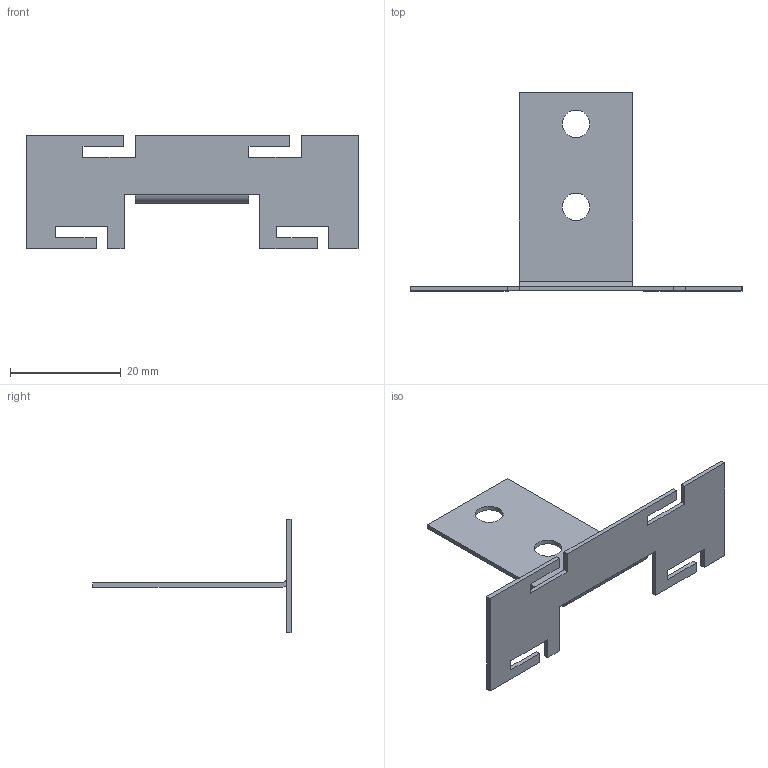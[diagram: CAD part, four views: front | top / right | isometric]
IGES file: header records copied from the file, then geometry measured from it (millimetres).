
Start section: Data from Parasolid IGES Translator 15.0.47, Copyright(c) 2006 Siemens P LM Software. All Rights Reserved.
Global section: file name: 9210129.igs; native system:  By UGS Corp.; preprocessor: XPlus GENERIC/IGES 3.0; author: Noname; organization: Noname; date: 20160303.182638; units: millimetre
Bounding box: 60 x 35.8 x 20.5 mm (x, y, z)
Surface area: 3495.9 mm2 (no closed solid volume)
Topology: 0 solids, 0 shells, 44 faces, 248 edges, 247 vertices
Faces by surface type: extrusion 40, revolution 4
